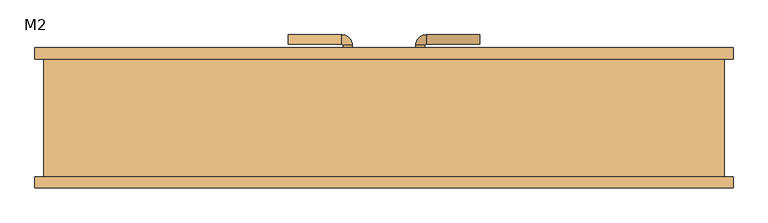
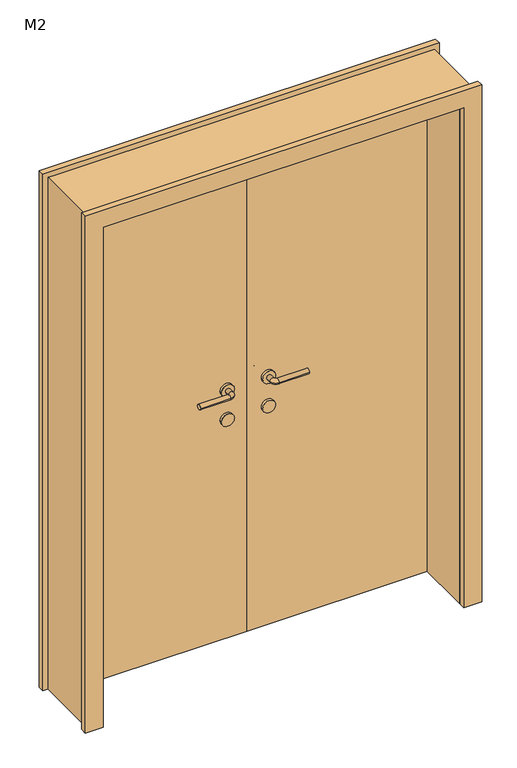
"""IFC4 building model written with IfcOpenShell, lengths in millimetres: door geometry, 双面嵌板木门 1 : M2."""

from ifc_helpers import new_model, si_unit, point, frame, frame_2d, origin, origin_with_axes, place, context, project, spatial, polyline, circle_curve, ellipse_curve, trimmed, segment, composite_curve, outline, extrude, source, transform, mapped, element, save
from ifc_brep_helpers import plane_surface, cylinder_surface, revolved_surface, advanced_brep


def m2_54796214(model_context):
    return source(origin(), model_context, "Body", "SolidModel", [
        extrude(outline(composite_curve([segment(trimmed(circle_curve(frame_2d((900.0, 80.0)), 25.0), [point((900.0, 105.0))], [point((900.0, 55.0))], False, "CARTESIAN"), True, "CONTINUOUS"), segment(trimmed(circle_curve(frame_2d((900.0, 80.0)), 25.0), [point((900.0, 55.0))], [point((900.0, 105.0))], False, "CARTESIAN"), True, "CONTINUOUS")], self_intersect=False)), frame((0.0, 130.0, 0.0), z_axis=(0.0, 1.0, 0.0), x_axis=(0.0, 0.0, 1.0)), (0.0, 0.0, 1.0), 10.0),
        extrude(outline(composite_curve([segment(trimmed(circle_curve(frame_2d((900.0, 80.0)), 25.0), [point((900.0, 105.0))], [point((900.0, 55.0))], False, "CARTESIAN"), True, "CONTINUOUS"), segment(trimmed(circle_curve(frame_2d((900.0, 80.0)), 25.0), [point((900.0, 55.0))], [point((900.0, 105.0))], False, "CARTESIAN"), True, "CONTINUOUS")], self_intersect=False)), frame((0.0, 80.0, 0.0), z_axis=(0.0, 1.0, 0.0), x_axis=(0.0, 0.0, 1.0)), (0.0, 0.0, 1.0), 10.0),
        advanced_brep(
        [(70.0, 140.0, 1020.0), (90.0, 140.0, 1020.0), (70.0, 160.6133551, 1020.0), (90.0, 160.6133551, 1020.0), (211.580964, 183.580964, 1020.0), (211.580964, 163.580964, 1020.0), (92.9676089, 163.580964, 1020.0), (92.9676089, 183.580964, 1020.0)],
        [
            (0, 1, circle_curve(frame((80.0, 140.0, 1020.0), z_axis=(0.0, -1.0, 0.0), x_axis=(1.0, 0.0, 0.0)), 10.0)),
            (1, 0, circle_curve(frame((80.0, 140.0, 1020.0), z_axis=(0.0, -1.0, 0.0), x_axis=(1.0, 0.0, 0.0)), 10.0)),
            (0, 2),
            (2, 3, circle_curve(frame((80.0, 160.6133551, 1020.0), z_axis=(0.0, -1.0, 0.0), x_axis=(1.0, 0.0, 0.0)), 10.0)),
            (3, 1),
            (3, 2, circle_curve(frame((80.0, 160.6133551, 1020.0), z_axis=(0.0, -1.0, 0.0), x_axis=(1.0, 0.0, 0.0)), 10.0)),
            (4, 5, circle_curve(frame((211.580964, 173.580964, 1020.0), z_axis=(1.0, 0.0, 0.0), x_axis=(0.0, -1.0, 0.0)), 10.0)),
            (5, 4, circle_curve(frame((211.580964, 173.580964, 1020.0), z_axis=(1.0, 0.0, 0.0), x_axis=(0.0, -1.0, 0.0)), 10.0)),
            (6, 7, circle_curve(frame((92.9676089, 173.580964, 1020.0), z_axis=(-1.0, 0.0, 0.0), x_axis=(0.0, -1.0, 0.0)), 10.0)),
            (7, 2, circle_curve(frame((92.9676089, 160.6133551, 1020.0), z_axis=(0.0, 0.0, 1.0), x_axis=(-1.0, 0.0, 0.0)), 22.9676089)),
            (3, 6, circle_curve(frame((92.9676089, 160.6133551, 1020.0), z_axis=(0.0, 0.0, -1.0), x_axis=(-1.0, 0.0, 0.0)), 2.9676089)),
            (7, 6, circle_curve(frame((92.9676089, 173.580964, 1020.0), z_axis=(-1.0, 0.0, 0.0), x_axis=(0.0, -1.0, 0.0)), 10.0)),
            (6, 5),
            (4, 7),
        ],
        [
            plane_surface(frame((80.0, 140.0, 900.0), z_axis=(0.0, -1.0, 0.0), x_axis=(0.0, 0.0, 1.0))),
            cylinder_surface(frame((80.0, 140.0, 1020.0), z_axis=(0.0, -1.0, 0.0), x_axis=(1.0, 0.0, 0.0)), 10.0),
            plane_surface(frame((211.580964, 173.580964, 900.0), z_axis=(1.0, 0.0, 0.0), x_axis=(0.0, 0.0, 1.0))),
            revolved_surface(trimmed(ellipse_curve(frame((80.0, 160.6133551, 1020.0), z_axis=(0.0, 1.0, 0.0), x_axis=(1.0, 0.0, 0.0)), 10.0, 10.0), [point((70.0, 160.6133551, 1020.0))], [point((90.0, 160.6133551, 1020.0))], True, "CARTESIAN"), (92.9676089, 160.6133551, 900.0), (0.0, 0.0, 1.0)),
            revolved_surface(trimmed(ellipse_curve(frame((80.0, 160.6133551, 1020.0), z_axis=(0.0, 1.0, 0.0), x_axis=(1.0, 0.0, 0.0)), 10.0, 10.0), [point((90.0, 160.6133551, 1020.0))], [point((70.0, 160.6133551, 1020.0))], True, "CARTESIAN"), (92.9676089, 160.6133551, 900.0), (0.0, 0.0, 1.0)),
            cylinder_surface(frame((92.9676089, 173.580964, 1020.0), z_axis=(-1.0, 0.0, 0.0), x_axis=(0.0, -1.0, 0.0)), 10.0),
        ],
        [
            (0, [[1, 2]]),
            (1, [[3, 4, 5, -1]]),
            (1, [[-5, 6, -3, -2]]),
            (2, [[7, 8]]),
            (3, [[9, 10, -6, 11]]),
            (4, [[12, -11, -4, -10]]),
            (5, [[13, -7, 14, -9]]),
            (5, [[-14, -8, -13, -12]]),
        ],
    ),
        extrude(outline(composite_curve([segment(trimmed(circle_curve(frame_2d((1020.0, 80.0)), 25.0), [point((1020.0, 105.0))], [point((1020.0, 55.0))], False, "CARTESIAN"), True, "CONTINUOUS"), segment(trimmed(circle_curve(frame_2d((1020.0, 80.0)), 25.0), [point((1020.0, 55.0))], [point((1020.0, 105.0))], False, "CARTESIAN"), True, "CONTINUOUS")], self_intersect=False)), frame((0.0, 130.0, 0.0), z_axis=(0.0, 1.0, 0.0), x_axis=(0.0, 0.0, 1.0)), (0.0, 0.0, 1.0), 10.0),
        advanced_brep(
        [(90.0, 80.0, 1020.0), (70.0, 80.0, 1020.0), (70.0, 59.386645, 1020.0), (90.0, 59.386645, 1020.0), (211.580964, 56.419036, 1020.0), (211.580964, 36.419036, 1020.0), (92.9676089, 36.419036, 1020.0), (92.9676089, 56.419036, 1020.0)],
        [
            (0, 1, circle_curve(frame((80.0, 80.0, 1020.0), z_axis=(0.0, 1.0, 0.0), x_axis=(-1.0, 0.0, 0.0)), 10.0)),
            (1, 0, circle_curve(frame((80.0, 80.0, 1020.0), z_axis=(0.0, 1.0, 0.0), x_axis=(-1.0, 0.0, 0.0)), 10.0)),
            (1, 2),
            (2, 3, circle_curve(frame((80.0, 59.386645, 1020.0), z_axis=(0.0, 1.0, 0.0), x_axis=(-1.0, 0.0, 0.0)), 10.0)),
            (3, 0),
            (3, 2, circle_curve(frame((80.0, 59.386645, 1020.0), z_axis=(0.0, 1.0, 0.0), x_axis=(-1.0, 0.0, 0.0)), 10.0)),
            (4, 5, circle_curve(frame((211.580964, 46.419036, 1020.0), z_axis=(1.0, 0.0, 0.0), x_axis=(0.0, -1.0, 0.0)), 10.0)),
            (5, 4, circle_curve(frame((211.580964, 46.419036, 1020.0), z_axis=(1.0, 0.0, 0.0), x_axis=(0.0, -1.0, 0.0)), 10.0)),
            (6, 7, circle_curve(frame((92.9676089, 46.419036, 1020.0), z_axis=(-1.0, 0.0, 0.0), x_axis=(0.0, -1.0, 0.0)), 10.0)),
            (7, 3, circle_curve(frame((92.9676089, 59.386645, 1020.0), z_axis=(0.0, 0.0, -1.0), x_axis=(-1.0, 0.0, 0.0)), 2.9676089)),
            (2, 6, circle_curve(frame((92.9676089, 59.386645, 1020.0), z_axis=(0.0, 0.0, 1.0), x_axis=(-1.0, 0.0, 0.0)), 22.9676089)),
            (7, 6, circle_curve(frame((92.9676089, 46.419036, 1020.0), z_axis=(-1.0, 0.0, 0.0), x_axis=(0.0, -1.0, 0.0)), 10.0)),
            (6, 5),
            (4, 7),
        ],
        [
            plane_surface(frame((80.0, 80.0, 900.0), z_axis=(0.0, 1.0, 0.0), x_axis=(0.0, 0.0, 1.0))),
            cylinder_surface(frame((80.0, 80.0, 1020.0), z_axis=(0.0, 1.0, 0.0), x_axis=(-1.0, 0.0, 0.0)), 10.0),
            plane_surface(frame((211.580964, 46.419036, 900.0), z_axis=(1.0, 0.0, 0.0), x_axis=(0.0, 0.0, 1.0))),
            revolved_surface(trimmed(ellipse_curve(frame((80.0, 59.386645, 1020.0), z_axis=(0.0, -1.0, 0.0), x_axis=(-1.0, 0.0, 0.0)), 10.0, 10.0), [point((90.0, 59.386645, 1020.0))], [point((70.0, 59.386645, 1020.0))], True, "CARTESIAN"), (92.9676089, 59.386645, 900.0), (0.0, 0.0, -1.0)),
            revolved_surface(trimmed(ellipse_curve(frame((80.0, 59.386645, 1020.0), z_axis=(0.0, -1.0, 0.0), x_axis=(-1.0, 0.0, 0.0)), 10.0, 10.0), [point((70.0, 59.386645, 1020.0))], [point((90.0, 59.386645, 1020.0))], True, "CARTESIAN"), (92.9676089, 59.386645, 900.0), (0.0, 0.0, -1.0)),
            cylinder_surface(frame((92.9676089, 46.419036, 1020.0), z_axis=(-1.0, 0.0, 0.0), x_axis=(0.0, -1.0, 0.0)), 10.0),
        ],
        [
            (0, [[1, 2]]),
            (1, [[3, 4, 5, -2]]),
            (1, [[-5, 6, -3, -1]]),
            (2, [[7, 8]]),
            (3, [[9, 10, -4, 11]]),
            (4, [[12, -11, -6, -10]]),
            (5, [[13, -7, 14, -9]]),
            (5, [[-14, -8, -13, -12]]),
        ],
    ),
        extrude(outline(composite_curve([segment(trimmed(circle_curve(frame_2d((1020.0, 80.0)), 25.0), [point((1020.0, 105.0))], [point((1020.0, 55.0))], False, "CARTESIAN"), True, "CONTINUOUS"), segment(trimmed(circle_curve(frame_2d((1020.0, 80.0)), 25.0), [point((1020.0, 55.0))], [point((1020.0, 105.0))], False, "CARTESIAN"), True, "CONTINUOUS")], self_intersect=False)), frame((0.0, 80.0, 0.0), z_axis=(0.0, 1.0, 0.0), x_axis=(0.0, 0.0, 1.0)), (0.0, 0.0, 1.0), 10.0),
        extrude(outline(composite_curve([segment(trimmed(circle_curve(frame_2d((900.0, -80.0)), 25.0), [point((900.0, -105.0))], [point((900.0, -55.0))], False, "CARTESIAN"), True, "CONTINUOUS"), segment(trimmed(circle_curve(frame_2d((900.0, -80.0)), 25.0), [point((900.0, -55.0))], [point((900.0, -105.0))], False, "CARTESIAN"), True, "CONTINUOUS")], self_intersect=False)), frame((0.0, 130.0, 0.0), z_axis=(0.0, 1.0, 0.0), x_axis=(0.0, 0.0, 1.0)), (0.0, 0.0, 1.0), 10.0),
        extrude(outline(composite_curve([segment(trimmed(circle_curve(frame_2d((900.0, -80.0)), 25.0), [point((900.0, -105.0))], [point((900.0, -55.0))], False, "CARTESIAN"), True, "CONTINUOUS"), segment(trimmed(circle_curve(frame_2d((900.0, -80.0)), 25.0), [point((900.0, -55.0))], [point((900.0, -105.0))], False, "CARTESIAN"), True, "CONTINUOUS")], self_intersect=False)), frame((0.0, 80.0, 0.0), z_axis=(0.0, 1.0, 0.0), x_axis=(0.0, 0.0, 1.0)), (0.0, 0.0, 1.0), 10.0),
        advanced_brep(
        [(-70.0, 140.0, 1020.0), (-90.0, 140.0, 1020.0), (-90.0, 160.6133551, 1020.0), (-70.0, 160.6133551, 1020.0), (-211.580964, 183.580964, 1020.0), (-211.580964, 163.580964, 1020.0), (-92.9676089, 163.580964, 1020.0), (-92.9676089, 183.580964, 1020.0)],
        [
            (0, 1, circle_curve(frame((-80.0, 140.0, 1020.0), z_axis=(0.0, -1.0, 0.0), x_axis=(-1.0, 0.0, 0.0)), 10.0)),
            (1, 0, circle_curve(frame((-80.0, 140.0, 1020.0), z_axis=(0.0, -1.0, 0.0), x_axis=(-1.0, 0.0, 0.0)), 10.0)),
            (1, 2),
            (2, 3, circle_curve(frame((-80.0, 160.6133551, 1020.0), z_axis=(0.0, -1.0, 0.0), x_axis=(-1.0, 0.0, 0.0)), 10.0)),
            (3, 0),
            (3, 2, circle_curve(frame((-80.0, 160.6133551, 1020.0), z_axis=(0.0, -1.0, 0.0), x_axis=(-1.0, 0.0, 0.0)), 10.0)),
            (4, 5, circle_curve(frame((-211.580964, 173.580964, 1020.0), z_axis=(-1.0, 0.0, 0.0), x_axis=(0.0, -1.0, 0.0)), 10.0)),
            (5, 4, circle_curve(frame((-211.580964, 173.580964, 1020.0), z_axis=(-1.0, 0.0, 0.0), x_axis=(0.0, -1.0, 0.0)), 10.0)),
            (6, 2, circle_curve(frame((-92.9676089, 160.6133551, 1020.0), z_axis=(0.0, 0.0, -1.0), x_axis=(1.0, 0.0, 0.0)), 2.9676089)),
            (3, 7, circle_curve(frame((-92.9676089, 160.6133551, 1020.0), z_axis=(0.0, 0.0, 1.0), x_axis=(1.0, 0.0, 0.0)), 22.9676089)),
            (7, 6, circle_curve(frame((-92.9676089, 173.580964, 1020.0), z_axis=(1.0, 0.0, 0.0), x_axis=(0.0, -1.0, 0.0)), 10.0)),
            (6, 7, circle_curve(frame((-92.9676089, 173.580964, 1020.0), z_axis=(1.0, 0.0, 0.0), x_axis=(0.0, -1.0, 0.0)), 10.0)),
            (7, 4),
            (5, 6),
        ],
        [
            plane_surface(frame((-80.0, 140.0, 900.0), z_axis=(0.0, -1.0, 0.0), x_axis=(0.0, 0.0, 1.0))),
            cylinder_surface(frame((-80.0, 140.0, 1020.0), z_axis=(0.0, -1.0, 0.0), x_axis=(-1.0, 0.0, 0.0)), 10.0),
            plane_surface(frame((-211.580964, 173.580964, 900.0), z_axis=(-1.0, 0.0, 0.0), x_axis=(0.0, 0.0, 1.0))),
            revolved_surface(trimmed(ellipse_curve(frame((-80.0, 160.6133551, 1020.0), z_axis=(0.0, -1.0, 0.0), x_axis=(-1.0, 0.0, 0.0)), 10.0, 10.0), [point((-70.0, 160.6133551, 1020.0))], [point((-90.0, 160.6133551, 1020.0))], True, "CARTESIAN"), (-92.9676089, 160.6133551, 900.0), (0.0, 0.0, 1.0)),
            revolved_surface(trimmed(ellipse_curve(frame((-80.0, 160.6133551, 1020.0), z_axis=(0.0, -1.0, 0.0), x_axis=(-1.0, 0.0, 0.0)), 10.0, 10.0), [point((-90.0, 160.6133551, 1020.0))], [point((-70.0, 160.6133551, 1020.0))], True, "CARTESIAN"), (-92.9676089, 160.6133551, 900.0), (0.0, 0.0, 1.0)),
            cylinder_surface(frame((-92.9676089, 173.580964, 1020.0), z_axis=(1.0, 0.0, 0.0), x_axis=(0.0, -1.0, 0.0)), 10.0),
        ],
        [
            (0, [[1, 2]]),
            (1, [[-2, 3, 4, 5]]),
            (1, [[-1, -5, 6, -3]]),
            (2, [[7, 8]]),
            (3, [[9, -6, 10, 11]]),
            (4, [[-10, -4, -9, 12]]),
            (5, [[-11, 13, -8, 14]]),
            (5, [[-12, -14, -7, -13]]),
        ],
    ),
        extrude(outline(composite_curve([segment(trimmed(circle_curve(frame_2d((1020.0, -80.0)), 25.0), [point((1020.0, -105.0))], [point((1020.0, -55.0))], False, "CARTESIAN"), True, "CONTINUOUS"), segment(trimmed(circle_curve(frame_2d((1020.0, -80.0)), 25.0), [point((1020.0, -55.0))], [point((1020.0, -105.0))], False, "CARTESIAN"), True, "CONTINUOUS")], self_intersect=False)), frame((0.0, 130.0, 0.0), z_axis=(0.0, 1.0, 0.0), x_axis=(0.0, 0.0, 1.0)), (0.0, 0.0, 1.0), 10.0),
        advanced_brep(
        [(-90.0, 80.0, 1020.0), (-70.0, 80.0, 1020.0), (-90.0, 59.386645, 1020.0), (-70.0, 59.386645, 1020.0), (-211.580964, 56.419036, 1020.0), (-211.580964, 36.419036, 1020.0), (-92.9676089, 36.419036, 1020.0), (-92.9676089, 56.419036, 1020.0)],
        [
            (0, 1, circle_curve(frame((-80.0, 80.0, 1020.0), z_axis=(0.0, 1.0, 0.0), x_axis=(1.0, 0.0, 0.0)), 10.0)),
            (1, 0, circle_curve(frame((-80.0, 80.0, 1020.0), z_axis=(0.0, 1.0, 0.0), x_axis=(1.0, 0.0, 0.0)), 10.0)),
            (0, 2),
            (2, 3, circle_curve(frame((-80.0, 59.386645, 1020.0), z_axis=(0.0, 1.0, 0.0), x_axis=(1.0, 0.0, 0.0)), 10.0)),
            (3, 1),
            (3, 2, circle_curve(frame((-80.0, 59.386645, 1020.0), z_axis=(0.0, 1.0, 0.0), x_axis=(1.0, 0.0, 0.0)), 10.0)),
            (4, 5, circle_curve(frame((-211.580964, 46.419036, 1020.0), z_axis=(-1.0, 0.0, 0.0), x_axis=(0.0, -1.0, 0.0)), 10.0)),
            (5, 4, circle_curve(frame((-211.580964, 46.419036, 1020.0), z_axis=(-1.0, 0.0, 0.0), x_axis=(0.0, -1.0, 0.0)), 10.0)),
            (6, 3, circle_curve(frame((-92.9676089, 59.386645, 1020.0), z_axis=(0.0, 0.0, 1.0), x_axis=(1.0, 0.0, 0.0)), 22.9676089)),
            (2, 7, circle_curve(frame((-92.9676089, 59.386645, 1020.0), z_axis=(0.0, 0.0, -1.0), x_axis=(1.0, 0.0, 0.0)), 2.9676089)),
            (7, 6, circle_curve(frame((-92.9676089, 46.419036, 1020.0), z_axis=(1.0, 0.0, 0.0), x_axis=(0.0, -1.0, 0.0)), 10.0)),
            (6, 7, circle_curve(frame((-92.9676089, 46.419036, 1020.0), z_axis=(1.0, 0.0, 0.0), x_axis=(0.0, -1.0, 0.0)), 10.0)),
            (7, 4),
            (5, 6),
        ],
        [
            plane_surface(frame((-80.0, 80.0, 900.0), z_axis=(0.0, 1.0, 0.0), x_axis=(0.0, 0.0, 1.0))),
            cylinder_surface(frame((-80.0, 80.0, 1020.0), z_axis=(0.0, 1.0, 0.0), x_axis=(1.0, 0.0, 0.0)), 10.0),
            plane_surface(frame((-211.580964, 46.419036, 900.0), z_axis=(-1.0, 0.0, 0.0), x_axis=(0.0, 0.0, 1.0))),
            revolved_surface(trimmed(ellipse_curve(frame((-80.0, 59.386645, 1020.0), z_axis=(0.0, 1.0, 0.0), x_axis=(1.0, 0.0, 0.0)), 10.0, 10.0), [point((-90.0, 59.386645, 1020.0))], [point((-70.0, 59.386645, 1020.0))], True, "CARTESIAN"), (-92.9676089, 59.386645, 900.0), (0.0, 0.0, -1.0)),
            revolved_surface(trimmed(ellipse_curve(frame((-80.0, 59.386645, 1020.0), z_axis=(0.0, 1.0, 0.0), x_axis=(1.0, 0.0, 0.0)), 10.0, 10.0), [point((-70.0, 59.386645, 1020.0))], [point((-90.0, 59.386645, 1020.0))], True, "CARTESIAN"), (-92.9676089, 59.386645, 900.0), (0.0, 0.0, -1.0)),
            cylinder_surface(frame((-92.9676089, 46.419036, 1020.0), z_axis=(1.0, 0.0, 0.0), x_axis=(0.0, -1.0, 0.0)), 10.0),
        ],
        [
            (0, [[1, 2]]),
            (1, [[-1, 3, 4, 5]]),
            (1, [[-2, -5, 6, -3]]),
            (2, [[7, 8]]),
            (3, [[9, -4, 10, 11]]),
            (4, [[-10, -6, -9, 12]]),
            (5, [[-11, 13, -8, 14]]),
            (5, [[-12, -14, -7, -13]]),
        ],
    ),
        extrude(outline(composite_curve([segment(trimmed(circle_curve(frame_2d((1020.0, -80.0)), 25.0), [point((1020.0, -105.0))], [point((1020.0, -55.0))], False, "CARTESIAN"), True, "CONTINUOUS"), segment(trimmed(circle_curve(frame_2d((1020.0, -80.0)), 25.0), [point((1020.0, -55.0))], [point((1020.0, -105.0))], False, "CARTESIAN"), True, "CONTINUOUS")], self_intersect=False)), frame((0.0, 80.0, 0.0), z_axis=(0.0, 1.0, 0.0), x_axis=(0.0, 0.0, 1.0)), (0.0, 0.0, 1.0), 10.0),
        extrude(outline(polyline([(0.0, 770.0), (2120.0, 770.0), (2120.0, -770.0), (0.0, -770.0), (0.0, -700.0), (2050.0, -700.0), (2050.0, 700.0), (0.0, 700.0), (0.0, 770.0)])), frame((0.0, 130.0, 0.0), z_axis=(0.0, 1.0, 0.0), x_axis=(0.0, 0.0, 1.0)), (0.0, 0.0, 1.0), 25.0),
        extrude(outline(polyline([(2120.0, 770.0), (2120.0, -770.0), (0.0, -770.0), (0.0, -700.0), (2050.0, -700.0), (2050.0, 700.0), (0.0, 700.0), (0.0, 770.0), (2120.0, 770.0)])), frame((0.0, -155.0, 0.0), z_axis=(0.0, 1.0, 0.0), x_axis=(0.0, 0.0, 1.0)), (0.0, 0.0, 1.0), 25.0),
        extrude(outline(polyline([(700.0, 90.0), (0.0, 90.0), (0.0, 130.0), (700.0, 130.0), (700.0, 90.0)])), origin_with_axes(), (0.0, 0.0, 1.0), 2050.0),
        extrude(outline(polyline([(0.0, 90.0), (-700.0, 90.0), (-700.0, 130.0), (0.0, 130.0), (0.0, 90.0)])), origin_with_axes(), (0.0, 0.0, 1.0), 2050.0),
        extrude(outline(polyline([(2100.0, -750.0), (0.0, -750.0), (0.0, -700.0), (2050.0, -700.0), (2050.0, 700.0), (0.0, 700.0), (0.0, 750.0), (2100.0, 750.0), (2100.0, -750.0)])), frame((0.0, -130.0, 0.0), z_axis=(0.0, 1.0, 0.0), x_axis=(0.0, 0.0, 1.0)), (0.0, 0.0, 1.0), 260.0),
    ])


if __name__ == "__main__":
    model = new_model("IFC4")
    model_context = context("Model", 3, world=origin())
    ifc_project = project(units=[si_unit("LENGTHUNIT", "METRE", prefix="MILLI")], contexts=[model_context])
    site = spatial("IfcSite", under=ifc_project)
    building = spatial("IfcBuilding", under=site)
    placement = place(None, origin())
    m2_shape = m2_54796214(model_context)
    element("IfcDoor", 1, ObjectType="双面嵌板木门 1 : M2", at=placement, inside=building, context=model_context, shape_type="MappedRepresentation", body=[
        mapped(m2_shape, transform((0.0, 0.0, 0.0), x_axis=(1.0, 0.0, 0.0), y_axis=(0.0, 1.0, 0.0), z_axis=(0.0, 0.0, 1.0))),
    ])
    save(model, "model.ifc")
